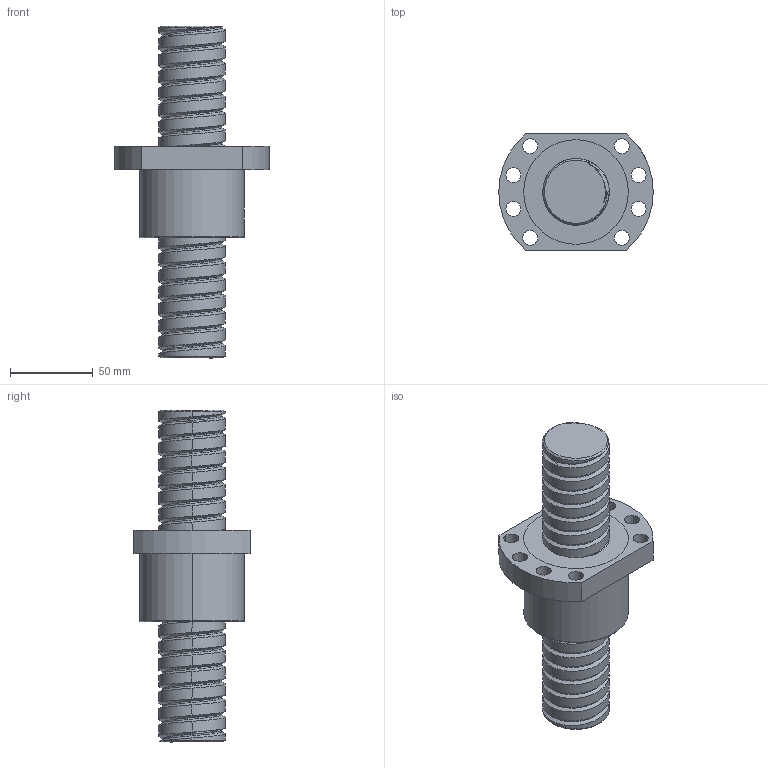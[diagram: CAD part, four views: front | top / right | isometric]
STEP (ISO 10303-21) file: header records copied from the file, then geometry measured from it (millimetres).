
FILE_DESCRIPTION (( 'STEP AP214' ), '1' );
FILE_NAME ('SFU4010-C-SFU4010.STEP', '2025-04-25T13:13:07', ( '' ), ( '' ), 'SwSTEP 2.0', 'SolidWorks 2019', '' );
FILE_SCHEMA (( 'AUTOMOTIVE_DESIGN' ));
Length unit declared in the file: millimetre
Products named in the file (3): SFU4010-C-SFU4010; SFU4010; C-SFU40
Assembly tree (2 placements, depth 2):
  SFU4010-C-SFU4010
    SFU4010
    C-SFU40
Bounding box: 93 x 70 x 200 mm (x, y, z)
Volume: 372029.1 mm3; surface area: 71340.7 mm2
Topology: 4 solids, 4 shells, 118 faces, 362 edges, 256 vertices
Faces by surface type: cylinder 95, plane 13, cone 5, bspline 3, torus 2
Entity records: 21739 total; most frequent: CARTESIAN_POINT 18535, ORIENTED_EDGE 724, DIRECTION 553, EDGE_CURVE 362, VERTEX_POINT 256, AXIS2_PLACEMENT_3D 216, EDGE_LOOP 146, VECTOR 121
